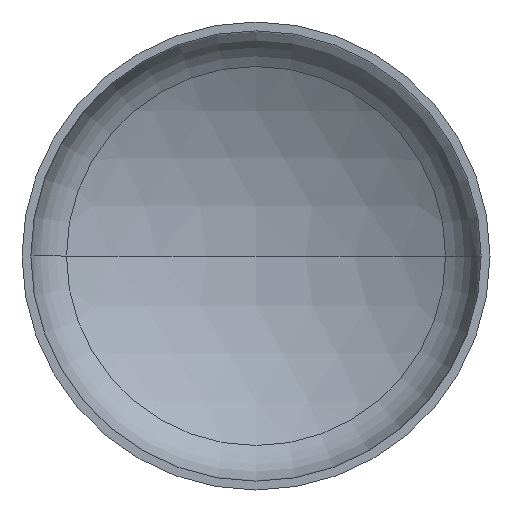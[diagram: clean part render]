
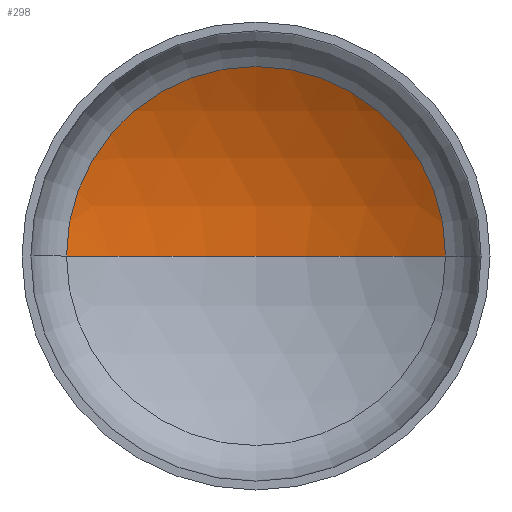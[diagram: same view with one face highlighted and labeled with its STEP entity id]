
A CAD part, front view. The second image highlights one B-rep face of the part: STEP entity #298.
In plain terms, the highlighted spherical face has radius 2880 mm.
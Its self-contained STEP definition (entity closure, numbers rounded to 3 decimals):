
#12 = EDGE_LOOP ( 'NONE', ( #86, #66, #267 ) ) ;
#19 = AXIS2_PLACEMENT_3D ( 'NONE', #159, #171, #308 ) ;
#38 = AXIS2_PLACEMENT_3D ( 'NONE', #56, #52, #195 ) ;
#43 = AXIS2_PLACEMENT_3D ( 'NONE', #253, #247, #246 ) ;
#47 = VERTEX_POINT ( 'NONE', #258 ) ;
#52 = DIRECTION ( 'NONE',  ( 0., 0., 1. ) ) ;
#53 = AXIS2_PLACEMENT_3D ( 'NONE', #243, #397, #205 ) ;
#56 = CARTESIAN_POINT ( 'NONE',  ( 0., -1885.068, 0. ) ) ;
#66 = ORIENTED_EDGE ( 'NONE', *, *, #213, .T. ) ;
#72 = VERTEX_POINT ( 'NONE', #296 ) ;
#86 = ORIENTED_EDGE ( 'NONE', *, *, #231, .F. ) ;
#132 = VERTEX_POINT ( 'NONE', #304 ) ;
#159 = CARTESIAN_POINT ( 'NONE',  ( 0., -1885.068, 0. ) ) ;
#171 = DIRECTION ( 'NONE',  ( 0., 0., -1. ) ) ;
#180 = EDGE_CURVE ( 'NONE', #47, #132, #365, .T. ) ;
#195 = DIRECTION ( 'NONE',  ( 1., 0., 0. ) ) ;
#205 = DIRECTION ( 'NONE',  ( 1., 0., 0. ) ) ;
#213 = EDGE_CURVE ( 'NONE', #72, #47, #355, .T. ) ;
#231 = EDGE_CURVE ( 'NONE', #72, #132, #351, .T. ) ;
#243 = CARTESIAN_POINT ( 'NONE',  ( 0., 598.629, 0. ) ) ;
#246 = DIRECTION ( 'NONE',  ( -1., 0., 0. ) ) ;
#247 = DIRECTION ( 'NONE',  ( 0., 0., -1. ) ) ;
#253 = CARTESIAN_POINT ( 'NONE',  ( 0., -1885.068, 0. ) ) ;
#258 = CARTESIAN_POINT ( 'NONE',  ( 1457.961, 598.629, 0. ) ) ;
#267 = ORIENTED_EDGE ( 'NONE', *, *, #180, .T. ) ;
#296 = CARTESIAN_POINT ( 'NONE',  ( 0., 994.932, 0. ) ) ;
#298 = ADVANCED_FACE ( 'NONE', ( #335 ), #344, .F. ) ;
#304 = CARTESIAN_POINT ( 'NONE',  ( -1457.961, 598.629, 0. ) ) ;
#308 = DIRECTION ( 'NONE',  ( -1., 0., 0. ) ) ;
#335 = FACE_OUTER_BOUND ( 'NONE', #12, .T. ) ;
#344 = SPHERICAL_SURFACE ( 'NONE', #19, 2880. ) ;
#351 = CIRCLE ( 'NONE', #38, 2880. ) ;
#355 = CIRCLE ( 'NONE', #43, 2880. ) ;
#365 = CIRCLE ( 'NONE', #53, 1457.961 ) ;
#397 = DIRECTION ( 'NONE',  ( 0., -1., 0. ) ) ;
